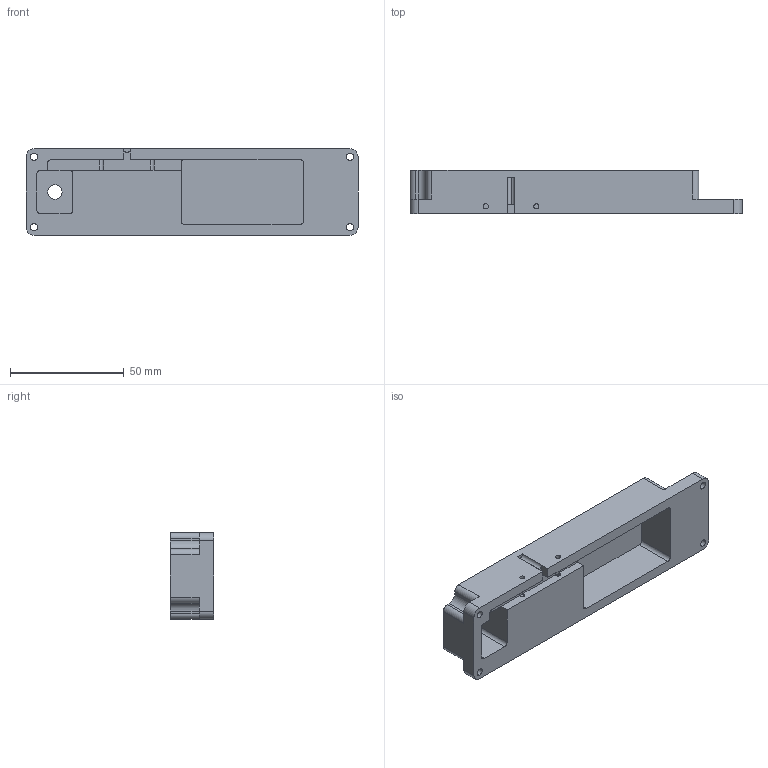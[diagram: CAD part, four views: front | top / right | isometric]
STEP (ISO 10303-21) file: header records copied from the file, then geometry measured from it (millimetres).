
FILE_DESCRIPTION (( 'STEP AP214' ), '1' );
FILE_NAME ('Drive box.STEP', '2019-10-03T23:26:48', ( 'John' ), ( 'Not Good' ), 'SwSTEP 2.0', 'SolidWorks 2008', '' );
FILE_SCHEMA (( 'AUTOMOTIVE_DESIGN' ));
Length unit declared in the file: inch
Products named in the file (1): Drive box
Bounding box: 146.05 x 19.05 x 38.1 mm (x, y, z)
Volume: 49397.8 mm3; surface area: 23773.5 mm2
Topology: 1 solids, 1 shells, 89 faces, 256 edges, 170 vertices
Faces by surface type: cylinder 47, plane 42
Entity records: 3011 total; most frequent: DIRECTION 538, CARTESIAN_POINT 516, ORIENTED_EDGE 512, EDGE_CURVE 256, AXIS2_PLACEMENT_3D 192, VERTEX_POINT 170, VECTOR 154, LINE 154
